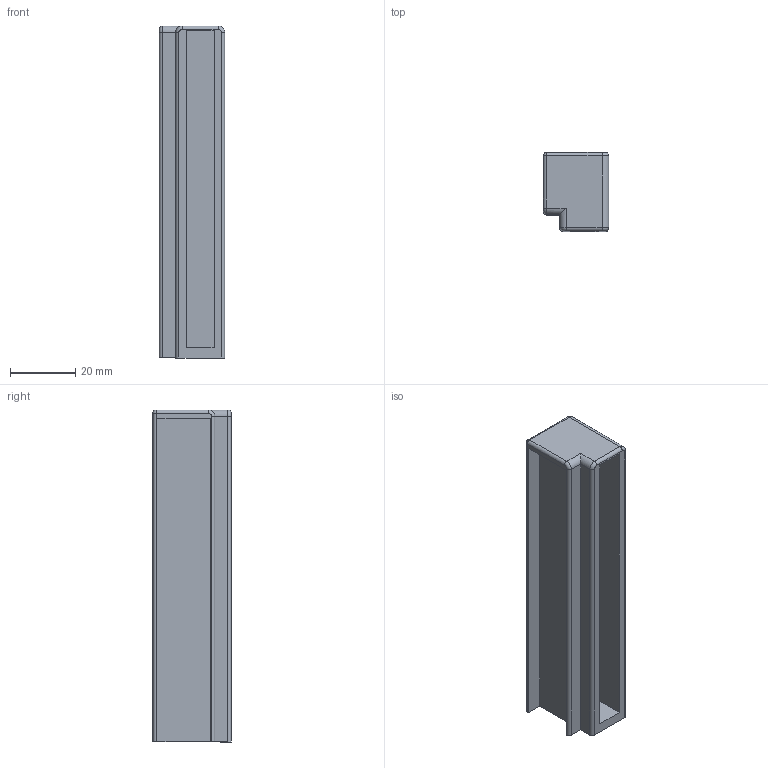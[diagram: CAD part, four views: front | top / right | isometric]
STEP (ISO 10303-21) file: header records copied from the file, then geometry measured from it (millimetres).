
FILE_DESCRIPTION (( 'STEP AP214' ), '1' );
FILE_NAME ('Abdeckkappe_Classic_hinten_rechts_STRW_Crystal .step', '2010-10-27T12:15:17', ( 'grass' ), ( '' ), 'SwSTEP 2.0', 'SolidWorks 2010', '' );
FILE_SCHEMA (( 'AUTOMOTIVE_DESIGN' ));
Length unit declared in the file: millimetre
Products named in the file (1): Abdeckkappe_Classic_hinten_rechts_STRW_Crystal 
Bounding box: 20 x 24 x 101.56 mm (x, y, z)
Volume: 26345.2 mm3; surface area: 13518.6 mm2
Topology: 1 solids, 1 shells, 33 faces, 79 edges, 48 vertices
Faces by surface type: plane 17, cylinder 11, torus 4, sphere 1
Entity records: 974 total; most frequent: DIRECTION 169, CARTESIAN_POINT 163, ORIENTED_EDGE 156, EDGE_CURVE 78, AXIS2_PLACEMENT_3D 58, LINE 53, VECTOR 53, VERTEX_POINT 48
